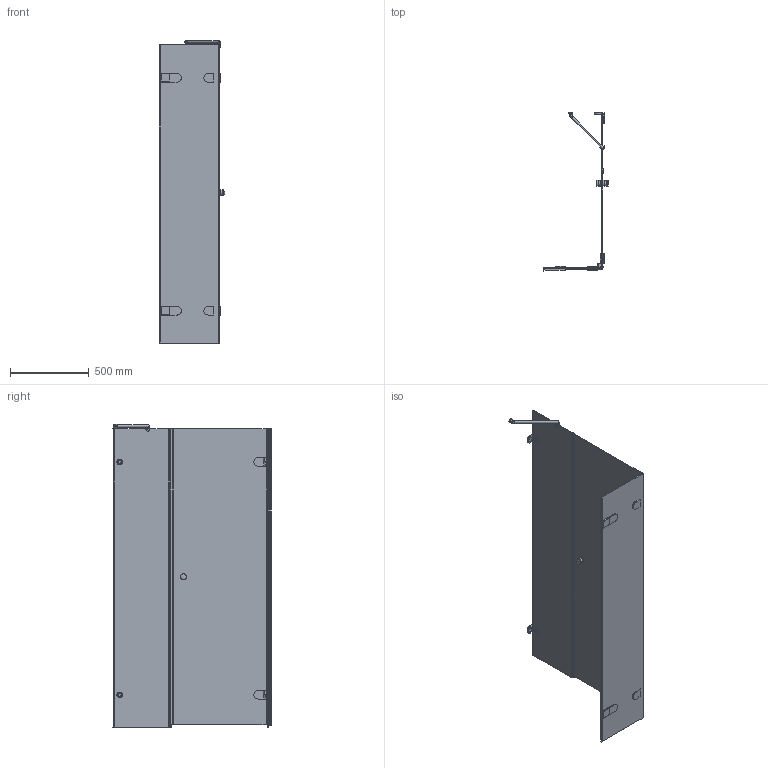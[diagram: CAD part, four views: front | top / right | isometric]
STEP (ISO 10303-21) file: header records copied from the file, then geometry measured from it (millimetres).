
FILE_DESCRIPTION(/* description */ (''),/* implementation_level */ '2;1');
FILE_NAME(/* name */ 'E:\Работа\Сергей\Душевые кабинки\! Работа\LUX SQUARE GK-003AiN\LUX SQUARE GK-003AiN левая модель\LUX SQUARE GK-003AiN ЛЕВАЯ-3D.stp',/* time_stamp */ '2017-05-19T20:26:23+03:00',/* author */ ('User'),/* organization */ (''),/* preprocessor_version */ 'ST-DEVELOPER v15.2',/* originating_system */ 'Autodesk Inventor 2014',/* authorisation */ '');
FILE_SCHEMA (('CONFIG_CONTROL_DESIGN'));
Length unit declared in the file: millimetre
Products named in the file (1): LUX SQUARE GK-003AiN ЛЕВАЯ-3D
Bounding box: 414.36 x 1005.58 x 1931.49 mm (x, y, z)
Volume: 16438791.2 mm3; surface area: 5514203.9 mm2
Topology: 4 solids, 4 shells, 371 faces, 983 edges, 651 vertices
Faces by surface type: plane 238, cylinder 112, torus 7, sphere 6, bspline 6, cone 2
Full cylindrical faces by diameter (mm): 12 x1, 15 x1, 20 x2, 26 x1, 30 x2, 35 x2, 38 x4, 40 x2
Entity records: 11981 total; most frequent: CARTESIAN_POINT 2295, DIRECTION 1918, ORIENTED_EDGE 1888, EDGE_CURVE 944, LINE 666, VECTOR 666, VERTEX_POINT 639, AXIS2_PLACEMENT_3D 626
